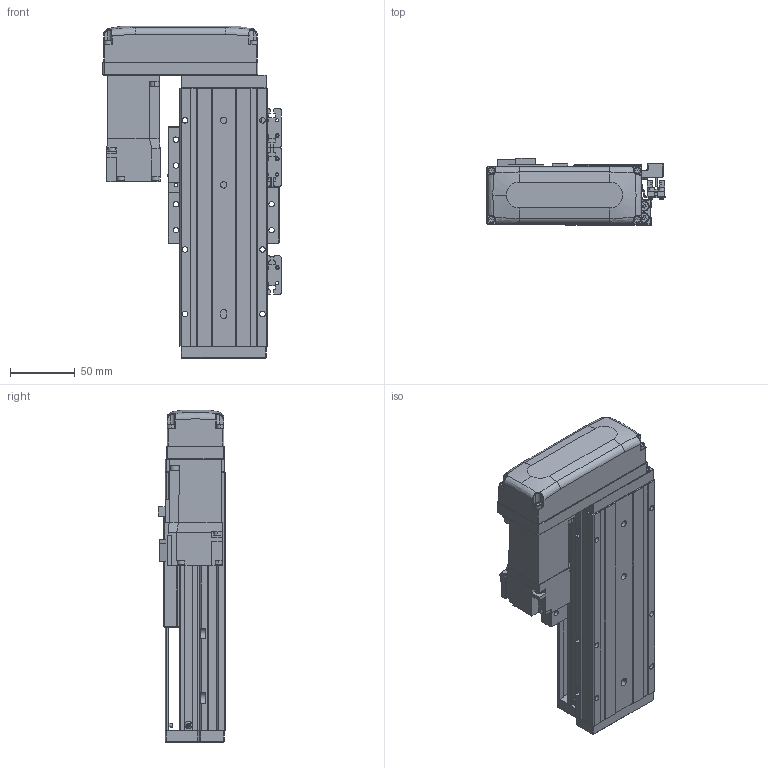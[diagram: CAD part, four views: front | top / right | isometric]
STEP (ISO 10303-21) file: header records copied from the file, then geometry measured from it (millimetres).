
FILE_DESCRIPTION (( 'STEP AP203' ), '1' );
FILE_NAME ('KTHAL60-50-BR-M10-C4L.step', '2022-03-19T08:44:42', ( '微软用户' ), ( '微软中国' ), 'SwSTEP 2.0', 'SolidWorks 2020', '' );
FILE_SCHEMA (( 'CONFIG_CONTROL_DESIGN' ));
Length unit declared in the file: millimetre
Products named in the file (18): CTHA60-015-2_CTHA60-015-2; GBT 70.3-M3℅6; CTHA60-016; CTHA60-033; EE_SX911P_R; KTHA60-001_200; GBT 70.1-M3×15; CTHA60-017; KTHLA60-002; KTHAL60-50-BR-M10-C4L; CTHA60-021; KTHA60-004; GBT 70.1-M4×16; KTHA60-005; GBT77-2000M3-3; HG-KR13（三菱）; GB¨uT 70.2-M3¡Á5_M3¡Á6; GBT 70.1-M3℅6
Assembly tree (51 placements, depth 2):
  KTHAL60-50-BR-M10-C4L
    KTHA60-001_200
    KTHLA60-002
    KTHA60-004
    KTHA60-005
    GB¨uT 70.2-M3¡Á5_M3¡Á6  x5
    GBT 70.3-M3℅6  x4
    EE_SX911P_R  x3
    CTHA60-017  x3
    CTHA60-021  x2
    GBT 70.1-M4×16  x10
    GBT77-2000M3-3  x6
    GBT 70.1-M3℅6  x6
    CTHA60-016
    HG-KR13（三菱）
    CTHA60-015-2_CTHA60-015-2
    CTHA60-033
    GBT 70.1-M3×15  x4
Bounding box: 137.82 x 52.3 x 257 mm (x, y, z)
Volume: 797188.3 mm3; surface area: 195617.8 mm2
Topology: 54 solids, 54 shells, 2215 faces, 5219 edges, 3197 vertices
Faces by surface type: plane 1264, cylinder 535, cone 278, torus 98, bspline 26, sphere 14
Entity records: 37409 total; most frequent: CARTESIAN_POINT 7112, DIRECTION 5803, ORIENTED_EDGE 5582, EDGE_CURVE 2791, AXIS2_PLACEMENT_3D 1955, LINE 1893, VECTOR 1893, VERTEX_POINT 1746
